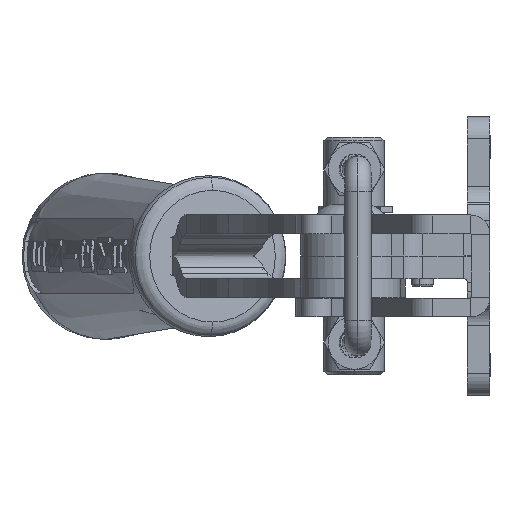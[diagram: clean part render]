
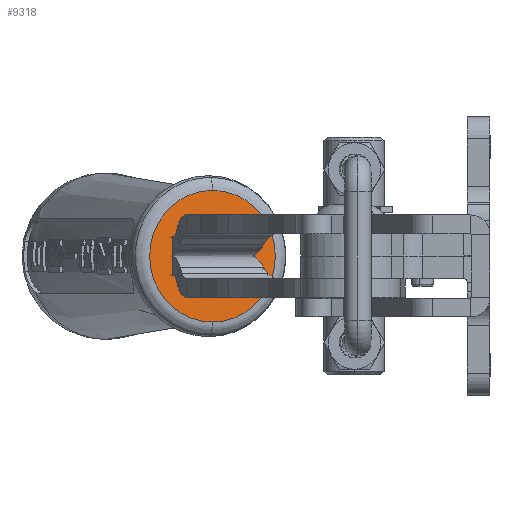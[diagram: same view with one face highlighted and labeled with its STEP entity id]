
A CAD part, left-side view. The second image highlights one B-rep face of the part: STEP entity #9318.
In plain terms, the highlighted planar face has unit normal (-0.953, -0.303, 0) as drawn and (1, 0, 0) by its records, which use the part's own axes.
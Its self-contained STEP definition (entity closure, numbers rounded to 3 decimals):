
#763 = FACE_BOUND ( 'NONE', #22230, .T. ) ;
#887 = FACE_OUTER_BOUND ( 'NONE', #16623, .T. ) ;
#1780 = ORIENTED_EDGE ( 'NONE', *, *, #15915, .F. ) ;
#2256 = LINE ( 'NONE', #16540, #6951 ) ;
#3003 = EDGE_CURVE ( 'NONE', #17511, #18001, #19666, .T. ) ;
#3791 = CARTESIAN_POINT ( 'NONE',  ( 0., 5.5, -2.5 ) ) ;
#3847 = CARTESIAN_POINT ( 'NONE',  ( 0., 0., 8.725 ) ) ;
#4215 = CARTESIAN_POINT ( 'NONE',  ( 0., 5.5, 2.5 ) ) ;
#4231 = EDGE_CURVE ( 'NONE', #9892, #12318, #16062, .T. ) ;
#4639 = CARTESIAN_POINT ( 'NONE',  ( 0., 10., 0. ) ) ;
#4936 = CARTESIAN_POINT ( 'NONE',  ( 0., 0., -8.725 ) ) ;
#5370 = DIRECTION ( 'NONE',  ( 0., 0., 1. ) ) ;
#5377 = ORIENTED_EDGE ( 'NONE', *, *, #4231, .T. ) ;
#6582 = DIRECTION ( 'NONE',  ( 0., 0., -1. ) ) ;
#6850 = VERTEX_POINT ( 'NONE', #16791 ) ;
#6951 = VECTOR ( 'NONE', #9640, 1000. ) ;
#7163 = DIRECTION ( 'NONE',  ( 0., -1., 0. ) ) ;
#7326 = DIRECTION ( 'NONE',  ( 1., 0., 0. ) ) ;
#8309 = AXIS2_PLACEMENT_3D ( 'NONE', #4639, #12004, #12618 ) ;
#9318 = ADVANCED_FACE ( 'NONE', ( #763, #887 ), #13807, .T. ) ;
#9640 = DIRECTION ( 'NONE',  ( 0., 0., -1. ) ) ;
#9892 = VERTEX_POINT ( 'NONE', #3847 ) ;
#10040 = ORIENTED_EDGE ( 'NONE', *, *, #3003, .F. ) ;
#10206 = CARTESIAN_POINT ( 'NONE',  ( 0., 0., 0. ) ) ;
#10331 = DIRECTION ( 'NONE',  ( 1., 0., 0. ) ) ;
#10465 = ORIENTED_EDGE ( 'NONE', *, *, #21046, .F. ) ;
#10838 = CARTESIAN_POINT ( 'NONE',  ( 0., -5.5, -2.5 ) ) ;
#10908 = LINE ( 'NONE', #19982, #15425 ) ;
#11172 = DIRECTION ( 'NONE',  ( 0., 0., -1. ) ) ;
#11203 = VECTOR ( 'NONE', #17962, 1000. ) ;
#11216 = AXIS2_PLACEMENT_3D ( 'NONE', #21957, #7326, #11172 ) ;
#12004 = DIRECTION ( 'NONE',  ( 1., 0., 0. ) ) ;
#12318 = VERTEX_POINT ( 'NONE', #4936 ) ;
#12618 = DIRECTION ( 'NONE',  ( 0., 0., -1. ) ) ;
#13510 = VERTEX_POINT ( 'NONE', #4215 ) ;
#13807 = PLANE ( 'NONE',  #8309 ) ;
#14239 = EDGE_CURVE ( 'NONE', #18001, #13510, #10908, .T. ) ;
#15007 = EDGE_CURVE ( 'NONE', #12318, #9892, #20483, .T. ) ;
#15024 = ORIENTED_EDGE ( 'NONE', *, *, #14239, .F. ) ;
#15425 = VECTOR ( 'NONE', #5370, 1000. ) ;
#15915 = EDGE_CURVE ( 'NONE', #6850, #17511, #2256, .T. ) ;
#16062 = CIRCLE ( 'NONE', #18007, 8.725 ) ;
#16467 = LINE ( 'NONE', #18035, #18268 ) ;
#16540 = CARTESIAN_POINT ( 'NONE',  ( 0., -5.5, -2.5 ) ) ;
#16623 = EDGE_LOOP ( 'NONE', ( #5377, #20360 ) ) ;
#16791 = CARTESIAN_POINT ( 'NONE',  ( 0., -5.5, 2.5 ) ) ;
#17511 = VERTEX_POINT ( 'NONE', #10838 ) ;
#17962 = DIRECTION ( 'NONE',  ( 0., 1., 0. ) ) ;
#18001 = VERTEX_POINT ( 'NONE', #3791 ) ;
#18007 = AXIS2_PLACEMENT_3D ( 'NONE', #10206, #10331, #6582 ) ;
#18035 = CARTESIAN_POINT ( 'NONE',  ( 0., -5.5, 2.5 ) ) ;
#18268 = VECTOR ( 'NONE', #7163, 1000. ) ;
#19666 = LINE ( 'NONE', #19784, #11203 ) ;
#19784 = CARTESIAN_POINT ( 'NONE',  ( 0., -5.5, -2.5 ) ) ;
#19982 = CARTESIAN_POINT ( 'NONE',  ( 0., 5.5, -2.5 ) ) ;
#20360 = ORIENTED_EDGE ( 'NONE', *, *, #15007, .T. ) ;
#20483 = CIRCLE ( 'NONE', #11216, 8.725 ) ;
#21046 = EDGE_CURVE ( 'NONE', #13510, #6850, #16467, .T. ) ;
#21957 = CARTESIAN_POINT ( 'NONE',  ( 0., 0., 0. ) ) ;
#22230 = EDGE_LOOP ( 'NONE', ( #10465, #15024, #10040, #1780 ) ) ;
